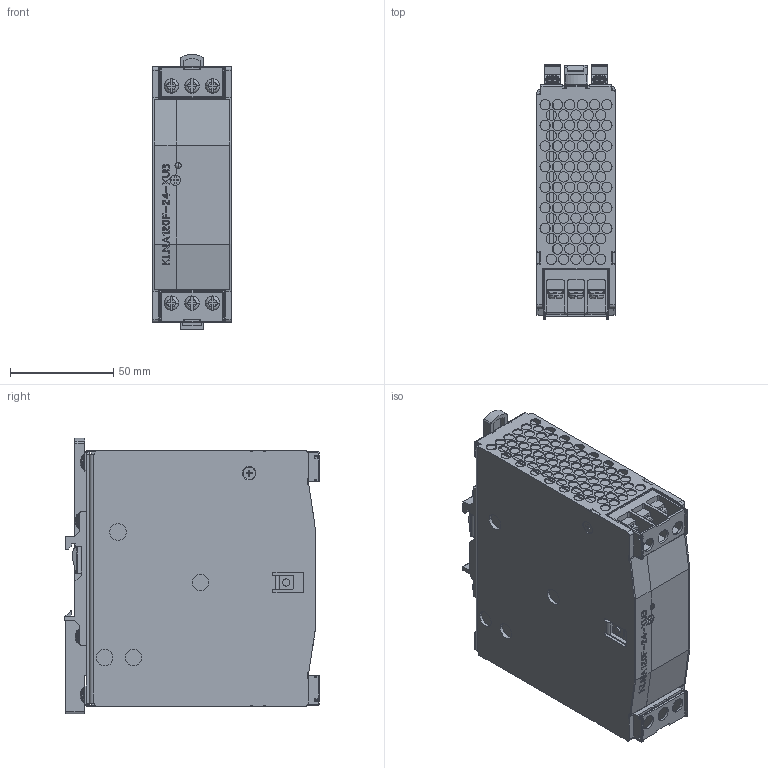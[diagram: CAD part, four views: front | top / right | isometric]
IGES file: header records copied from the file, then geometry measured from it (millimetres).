
Start section: Elysium IGES Interface
Global section: file name: 69HY:\data\KHA\3D\KLNA-XUB\DIN取付金具変更_2061121\klna120f-xub(igs).igs; native system: CoCreate Modeling 17.0  01-Apr-2010; preprocessor: CoCreate IGES_3D V2.2; author: Unknown; organization: Unknown; date: 20161201.154609; units: millimetre
Bounding box: 38 x 123.7 x 133.47 mm (x, y, z)
Volume: 481153.9 mm3; surface area: 138474.4 mm2
Topology: 2 solids, 33 shells, 3889 faces, 11150 edges, 7210 vertices
Faces by surface type: bspline 3889
